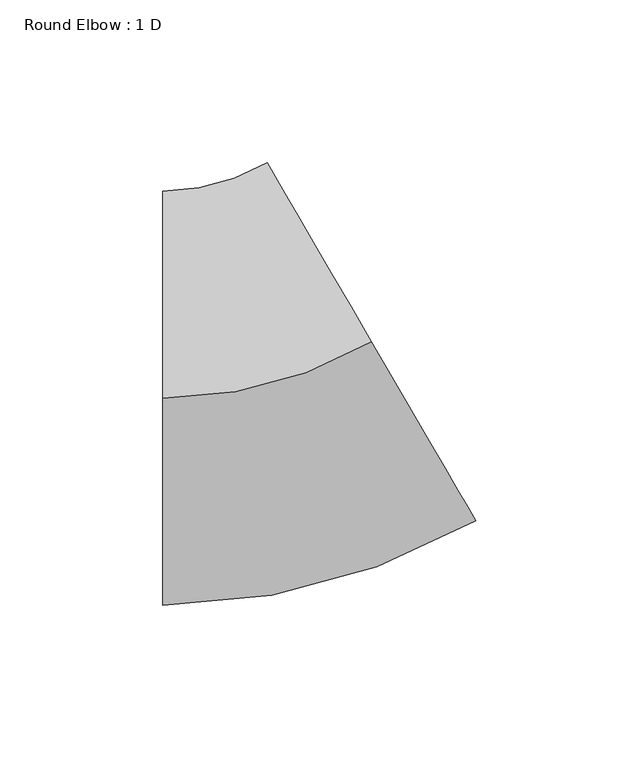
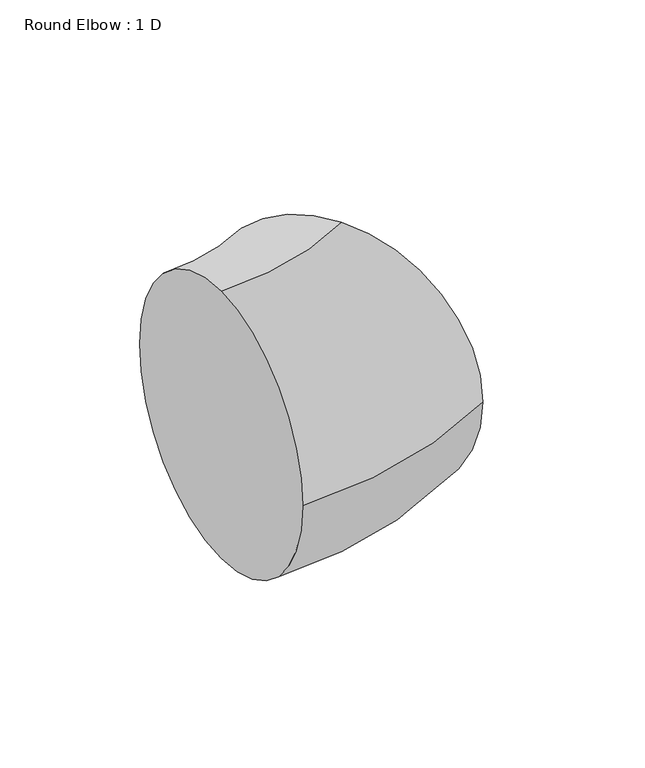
"""IFC4 building model written with IfcOpenShell, lengths in millimetres: duct fitting geometry, Round Elbow : 1 D."""

from ifc_helpers import new_model, si_unit, point, frame, origin, place, context, project, spatial, circle_curve, ellipse_curve, trimmed, source, transform, mapped, element, save
from ifc_brep_helpers import plane_surface, revolved_surface, advanced_brep


def round_elbow_1_d_b2a2d1fc(model_context):
    return source(origin(), model_context, "Body", "AdvancedBrep", [
        advanced_brep(
        [(-34.3078452, 0.0, 63.5), (-34.3078452, 63.5, 0.0), (-34.3078452, 0.0, -63.5), (-34.3078452, -63.5, 0.0), (29.6411126, 17.2752043, 63.5), (61.6155915, -37.5871936, 0.0), (29.6411126, 17.2752043, -63.5), (-2.3333663, 72.1376021, 0.0)],
        [
            (0, 1, circle_curve(frame((-34.3078452, 0.0, 0.0), z_axis=(-1.0, 0.0, 0.0), x_axis=(0.0, 1.0, 0.0)), 63.5)),
            (1, 2, circle_curve(frame((-34.3078452, 0.0, 0.0), z_axis=(-1.0, 0.0, 0.0), x_axis=(0.0, 1.0, 0.0)), 63.5)),
            (2, 3, circle_curve(frame((-34.3078452, 0.0, 0.0), z_axis=(-1.0, 0.0, 0.0), x_axis=(0.0, 1.0, 0.0)), 63.5)),
            (3, 0, circle_curve(frame((-34.3078452, 0.0, 0.0), z_axis=(-1.0, 0.0, 0.0), x_axis=(0.0, 1.0, 0.0)), 63.5)),
            (4, 5, circle_curve(frame((29.6411126, 17.2752043, 0.0), z_axis=(0.863974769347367, 0.5035351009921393, 0.0), x_axis=(-0.5035351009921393, 0.863974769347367, 0.0)), 63.5)),
            (5, 6, circle_curve(frame((29.6411126, 17.2752043, 0.0), z_axis=(0.863974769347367, 0.5035351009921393, 0.0), x_axis=(-0.5035351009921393, 0.863974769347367, 0.0)), 63.5)),
            (6, 7, circle_curve(frame((29.6411126, 17.2752043, 0.0), z_axis=(0.863974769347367, 0.5035351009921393, 0.0), x_axis=(-0.5035351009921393, 0.863974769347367, 0.0)), 63.5)),
            (7, 4, circle_curve(frame((29.6411126, 17.2752043, 0.0), z_axis=(0.863974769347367, 0.5035351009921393, 0.0), x_axis=(-0.5035351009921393, 0.863974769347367, 0.0)), 63.5)),
            (7, 1, circle_curve(frame((-34.3078452, 127.0, 0.0), z_axis=(0.0, 0.0, -1.0), x_axis=(0.0, -1.0, 0.0)), 63.5)),
            (0, 4, circle_curve(frame((-34.3078452, 127.0, 63.5), z_axis=(0.0, 0.0, 1.0), x_axis=(0.0, -1.0, 0.0)), 127.0)),
            (6, 2, circle_curve(frame((-34.3078452, 127.0, -63.5), z_axis=(0.0, 0.0, -1.0), x_axis=(0.0, -1.0, 0.0)), 127.0)),
            (5, 3, circle_curve(frame((-34.3078452, 127.0, 0.0), z_axis=(0.0, 0.0, -1.0), x_axis=(0.0, -1.0, 0.0)), 190.5)),
        ],
        [
            plane_surface(frame((-34.3078452, 0.0, 0.0), z_axis=(-1.0, 0.0, 0.0), x_axis=(0.0, 0.0, 1.0))),
            plane_surface(frame((29.6411126, 17.2752043, 0.0), z_axis=(0.863974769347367, 0.5035351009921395, 0.0), x_axis=(0.0, 0.0, 1.0))),
            revolved_surface(trimmed(ellipse_curve(frame((-34.3078452, 0.0, 0.0), z_axis=(-1.0, 0.0, 0.0), x_axis=(0.0, 1.0, 0.0)), 63.5, 63.5), [point((-34.3078452, 0.0, 63.5))], [point((-34.3078452, 63.5, 0.0))], True, "CARTESIAN"), (-34.3078452, 127.0, 0.0), (0.0, 0.0, 1.0)),
            revolved_surface(trimmed(ellipse_curve(frame((-34.3078452, 0.0, 0.0), z_axis=(-1.0, 0.0, 0.0), x_axis=(0.0, 1.0, 0.0)), 63.5, 63.5), [point((-34.3078452, 63.5, 0.0))], [point((-34.3078452, 0.0, -63.5))], True, "CARTESIAN"), (-34.3078452, 127.0, 0.0), (0.0, 0.0, 1.0)),
            revolved_surface(trimmed(ellipse_curve(frame((-34.3078452, 0.0, 0.0), z_axis=(-1.0, 0.0, 0.0), x_axis=(0.0, 1.0, 0.0)), 63.5, 63.5), [point((-34.3078452, 0.0, -63.5))], [point((-34.3078452, -63.5, 0.0))], True, "CARTESIAN"), (-34.3078452, 127.0, 0.0), (0.0, 0.0, 1.0)),
            revolved_surface(trimmed(ellipse_curve(frame((-34.3078452, 0.0, 0.0), z_axis=(-1.0, 0.0, 0.0), x_axis=(0.0, 1.0, 0.0)), 63.5, 63.5), [point((-34.3078452, -63.5, 0.0))], [point((-34.3078452, 0.0, 63.5))], True, "CARTESIAN"), (-34.3078452, 127.0, 0.0), (0.0, 0.0, 1.0)),
        ],
        [
            (0, [[1, 2, 3, 4]]),
            (1, [[5, 6, 7, 8]]),
            (2, [[9, -1, 10, -8]]),
            (3, [[11, -2, -9, -7]]),
            (4, [[12, -3, -11, -6]]),
            (5, [[-10, -4, -12, -5]]),
        ],
    ),
    ])


if __name__ == "__main__":
    model = new_model("IFC4")
    model_context = context("Model", 3, world=origin())
    ifc_project = project(units=[si_unit("LENGTHUNIT", "METRE", prefix="MILLI")], contexts=[model_context])
    site = spatial("IfcSite", under=ifc_project)
    building = spatial("IfcBuilding", under=site)
    placement = place(None, origin())
    round_elbow_1_d_shape = round_elbow_1_d_b2a2d1fc(model_context)
    element("IfcDuctFitting", 1, ObjectType="Round Elbow : 1 D", at=placement, inside=building, context=model_context, shape_type="MappedRepresentation", body=[
        mapped(round_elbow_1_d_shape, transform((0.0, 0.0, 0.0), x_axis=(1.0, 0.0, 0.0), y_axis=(0.0, 1.0, 0.0), z_axis=(0.0, 0.0, 1.0))),
    ])
    save(model, "model.ifc")
